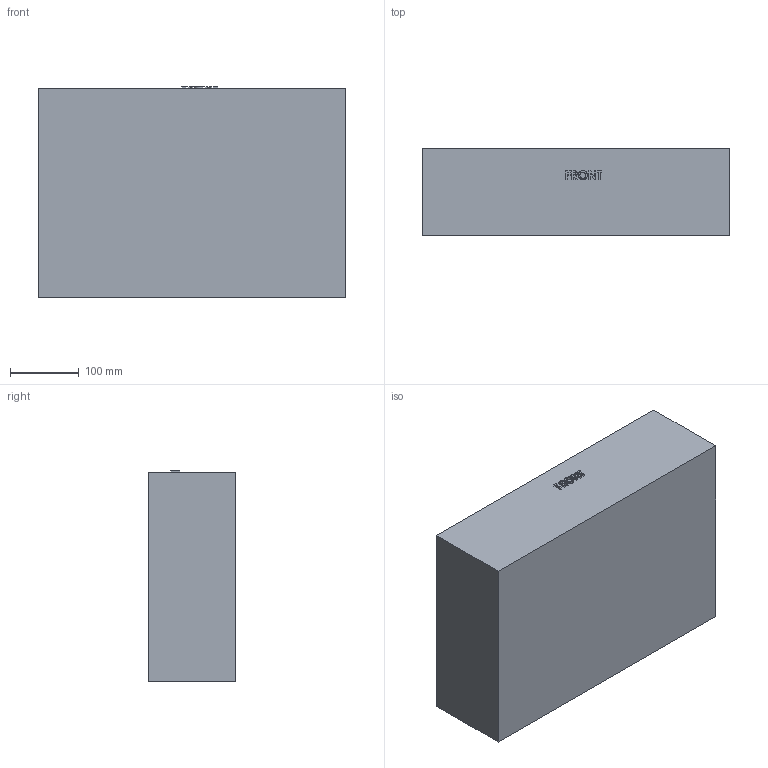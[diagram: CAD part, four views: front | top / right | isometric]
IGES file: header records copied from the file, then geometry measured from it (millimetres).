
Start section: SolidWorks IGES file using analytic representation for surfaces
Global section: file name: Q:\_Engineering Public\case_iges\1500\1500bot- rev G.IGS; native system: SolidWorks 2005 by SolidWorks Corporation; preprocessor: SolidWorks 2005 by SolidWorks Corporation; author: btennant; date: 050505.171442; units: inch
Bounding box: 445.64 x 127 x 305.81 mm (x, y, z)
Surface area: 601522.5 mm2 (no closed solid volume)
Topology: 0 solids, 0 shells, 130 faces, 1945 edges, 1945 vertices
Faces by surface type: bspline 90, revolution 40
